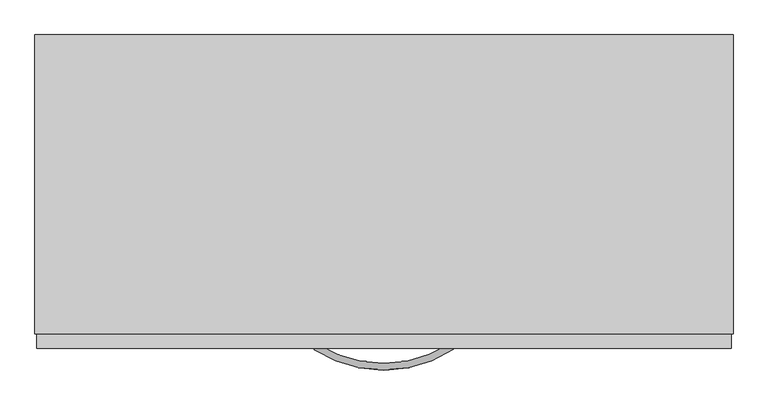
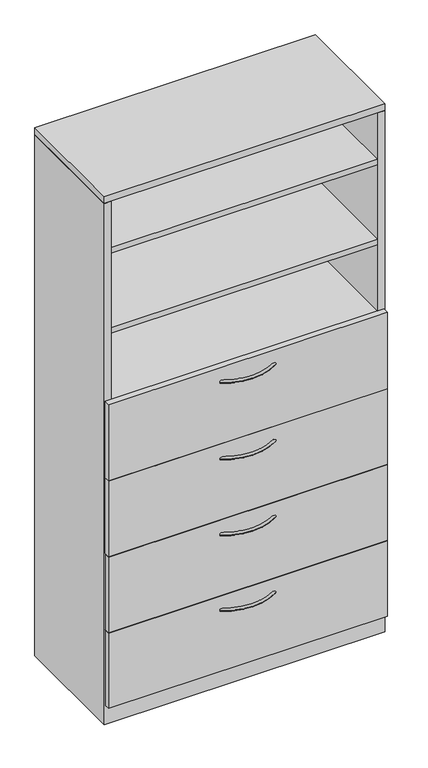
"""IFC4 building model written with IfcOpenShell, lengths in millimetres: furniture geometry, Steelcase - Universal Storage - Cabinet - Combination - Proud Steel : 83 1/2H - Open Cabinet/4 Drawers - 18 7/8D x 42W."""

from ifc_helpers import new_model, si_unit, point, frame, origin, place, context, project, spatial, polyline, circle_curve, ellipse_curve, trimmed, outline, extrude, faceted_brep, source, transform, mapped, element, save
from ifc_brep_helpers import plane_surface, revolved_surface, advanced_brep


def furniture_5d3c492f(model_context):
    return source(origin(), model_context, "Body", "SolidModel", [
        extrude(outline(polyline([(1041.4000242, -25.4000008), (1041.4000242, -454.0250121), (25.4000008, -454.0250121), (25.4000008, -25.4000008), (1041.4000242, -25.4000008)])), frame((0.0, 0.0, 1273.1750484), z_axis=(0.0, 0.0, 1.0), x_axis=(1.0, 0.0, 0.0)), (0.0, 0.0, 1.0), 22.2249516),
        extrude(outline(polyline([(1041.4000242, -25.4000008), (1041.4000242, -454.0250121), (25.4000008, -454.0250121), (25.4000008, -25.4000008), (1041.4000242, -25.4000008)])), frame((0.0, 0.0, 1562.7350484), z_axis=(0.0, 0.0, 1.0), x_axis=(1.0, 0.0, 0.0)), (0.0, 0.0, 1.0), 22.2249516),
        extrude(outline(polyline([(1041.4000242, -25.4000008), (1041.4000242, -454.0250121), (25.4000008, -454.0250121), (25.4000008, -25.4000008), (1041.4000242, -25.4000008)])), frame((0.0, 0.0, 1882.7750484), z_axis=(0.0, 0.0, 1.0), x_axis=(1.0, 0.0, 0.0)), (0.0, 0.0, 1.0), 22.2249516),
        advanced_brep(
        [(426.8245932, -481.5705994, 1240.6312742), (432.2977519, -473.0108019, 1240.6312742), (639.1315136, -481.1337636, 1240.6312742), (633.6231767, -472.5965612, 1240.6312742)],
        [
            (0, 1, circle_curve(frame((429.5611726, -477.2907007, 1240.6312742), z_axis=(-0.8424997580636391, 0.5386967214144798, 0.0), x_axis=(0.5386967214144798, 0.8424997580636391, 0.0)), 5.08)),
            (1, 0, circle_curve(frame((429.5611726, -477.2907007, 1240.6312742), z_axis=(-0.8424997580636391, 0.5386967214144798, 0.0), x_axis=(0.5386967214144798, 0.8424997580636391, 0.0)), 5.08)),
            (2, 3, circle_curve(frame((636.3773452, -476.8651624, 1240.6312742), z_axis=(0.8402758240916, 0.5421591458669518, 0.0), x_axis=(-0.5421591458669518, 0.8402758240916, 0.0)), 5.08)),
            (3, 2, circle_curve(frame((636.3773452, -476.8651624, 1240.6312742), z_axis=(0.8402758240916, 0.5421591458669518, 0.0), x_axis=(-0.5421591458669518, 0.8402758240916, 0.0)), 5.08)),
            (3, 1, circle_curve(frame((532.6380004, -316.0827352, 1240.6312742), z_axis=(0.0, 0.0, -1.0), x_axis=(-0.5386967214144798, -0.8424997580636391, 0.0)), 186.2648211)),
            (0, 2, circle_curve(frame((532.6380004, -316.0827352, 1240.6312742), z_axis=(0.0, 0.0, 1.0), x_axis=(-0.5386967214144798, -0.8424997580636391, 0.0)), 196.4248211)),
        ],
        [
            plane_surface(frame((429.9794521, -476.6365286, 1241.4250242), z_axis=(-0.8424997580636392, 0.5386967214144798, 0.0), x_axis=(0.0, 0.0, 1.0))),
            plane_surface(frame((635.9563772, -476.2127171, 1241.4250242), z_axis=(0.8402758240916, 0.5421591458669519, 0.0), x_axis=(0.0, 0.0, 1.0))),
            revolved_surface(trimmed(ellipse_curve(frame((429.5611726, -477.2907007, 1240.6312742), z_axis=(-0.8424997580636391, 0.5386967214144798, 0.0), x_axis=(0.5386967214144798, 0.8424997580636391, 0.0)), 5.08, 5.08), [point((426.8245932, -481.5705994, 1240.6312742))], [point((432.2977519, -473.0108019, 1240.6312742))], True, "CARTESIAN"), (532.6380004, -316.0827352, 1241.4250242), (0.0, 0.0, 1.0)),
            revolved_surface(trimmed(ellipse_curve(frame((429.5611726, -477.2907007, 1240.6312742), z_axis=(-0.8424997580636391, 0.5386967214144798, 0.0), x_axis=(0.5386967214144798, 0.8424997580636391, 0.0)), 5.08, 5.08), [point((432.2977519, -473.0108019, 1240.6312742))], [point((426.8245932, -481.5705994, 1240.6312742))], True, "CARTESIAN"), (532.6380004, -316.0827352, 1241.4250242), (0.0, 0.0, 1.0)),
        ],
        [
            (0, [[1, 2]]),
            (1, [[3, 4]]),
            (2, [[5, -1, 6, -4]]),
            (3, [[-6, -2, -5, -3]]),
        ],
    ),
        advanced_brep(
        [(426.8245932, -481.5705994, 323.56425), (432.2977519, -473.0108019, 323.56425), (639.1315136, -481.1337636, 323.56425), (633.6231767, -472.5965612, 323.56425)],
        [
            (0, 1, circle_curve(frame((429.5611726, -477.2907007, 323.56425), z_axis=(-0.8424997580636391, 0.5386967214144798, 0.0), x_axis=(0.5386967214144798, 0.8424997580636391, 0.0)), 5.08)),
            (1, 0, circle_curve(frame((429.5611726, -477.2907007, 323.56425), z_axis=(-0.8424997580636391, 0.5386967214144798, 0.0), x_axis=(0.5386967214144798, 0.8424997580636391, 0.0)), 5.08)),
            (2, 3, circle_curve(frame((636.3773452, -476.8651624, 323.56425), z_axis=(0.8402758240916, 0.5421591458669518, 0.0), x_axis=(-0.5421591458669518, 0.8402758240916, 0.0)), 5.08)),
            (3, 2, circle_curve(frame((636.3773452, -476.8651624, 323.56425), z_axis=(0.8402758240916, 0.5421591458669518, 0.0), x_axis=(-0.5421591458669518, 0.8402758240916, 0.0)), 5.08)),
            (3, 1, circle_curve(frame((532.6380004, -316.0827352, 323.56425), z_axis=(0.0, 0.0, -1.0), x_axis=(-0.5386967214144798, -0.8424997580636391, 0.0)), 186.2648211)),
            (0, 2, circle_curve(frame((532.6380004, -316.0827352, 323.56425), z_axis=(0.0, 0.0, 1.0), x_axis=(-0.5386967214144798, -0.8424997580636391, 0.0)), 196.4248211)),
        ],
        [
            plane_surface(frame((429.9794521, -476.6365286, 324.358), z_axis=(-0.8424997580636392, 0.5386967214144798, 0.0), x_axis=(0.0, 0.0, 1.0))),
            plane_surface(frame((635.9563772, -476.2127171, 324.358), z_axis=(0.8402758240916, 0.5421591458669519, 0.0), x_axis=(0.0, 0.0, 1.0))),
            revolved_surface(trimmed(ellipse_curve(frame((429.5611726, -477.2907007, 323.56425), z_axis=(-0.8424997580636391, 0.5386967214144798, 0.0), x_axis=(0.5386967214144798, 0.8424997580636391, 0.0)), 5.08, 5.08), [point((426.8245932, -481.5705994, 323.56425))], [point((432.2977519, -473.0108019, 323.56425))], True, "CARTESIAN"), (532.6380004, -316.0827352, 324.358), (0.0, 0.0, 1.0)),
            revolved_surface(trimmed(ellipse_curve(frame((429.5611726, -477.2907007, 323.56425), z_axis=(-0.8424997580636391, 0.5386967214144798, 0.0), x_axis=(0.5386967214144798, 0.8424997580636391, 0.0)), 5.08, 5.08), [point((432.2977519, -473.0108019, 323.56425))], [point((426.8245932, -481.5705994, 323.56425))], True, "CARTESIAN"), (532.6380004, -316.0827352, 324.358), (0.0, 0.0, 1.0)),
        ],
        [
            (0, [[1, 2]]),
            (1, [[3, 4]]),
            (2, [[5, -1, 6, -4]]),
            (3, [[-6, -2, -5, -3]]),
        ],
    ),
        advanced_brep(
        [(426.8245932, -481.5705994, 627.85625), (432.2977519, -473.0108019, 627.85625), (639.1315136, -481.1337636, 627.85625), (633.6231767, -472.5965612, 627.85625)],
        [
            (0, 1, circle_curve(frame((429.5611726, -477.2907007, 627.85625), z_axis=(-0.8424997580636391, 0.5386967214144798, 0.0), x_axis=(0.5386967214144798, 0.8424997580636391, 0.0)), 5.08)),
            (1, 0, circle_curve(frame((429.5611726, -477.2907007, 627.85625), z_axis=(-0.8424997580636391, 0.5386967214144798, 0.0), x_axis=(0.5386967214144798, 0.8424997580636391, 0.0)), 5.08)),
            (2, 3, circle_curve(frame((636.3773452, -476.8651624, 627.85625), z_axis=(0.8402758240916, 0.5421591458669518, 0.0), x_axis=(-0.5421591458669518, 0.8402758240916, 0.0)), 5.08)),
            (3, 2, circle_curve(frame((636.3773452, -476.8651624, 627.85625), z_axis=(0.8402758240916, 0.5421591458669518, 0.0), x_axis=(-0.5421591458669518, 0.8402758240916, 0.0)), 5.08)),
            (3, 1, circle_curve(frame((532.6380004, -316.0827352, 627.85625), z_axis=(0.0, 0.0, -1.0), x_axis=(-0.5386967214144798, -0.8424997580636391, 0.0)), 186.2648211)),
            (0, 2, circle_curve(frame((532.6380004, -316.0827352, 627.85625), z_axis=(0.0, 0.0, 1.0), x_axis=(-0.5386967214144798, -0.8424997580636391, 0.0)), 196.4248211)),
        ],
        [
            plane_surface(frame((429.9794521, -476.6365286, 628.65), z_axis=(-0.8424997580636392, 0.5386967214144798, 0.0), x_axis=(0.0, 0.0, 1.0))),
            plane_surface(frame((635.9563772, -476.2127171, 628.65), z_axis=(0.8402758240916, 0.5421591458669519, 0.0), x_axis=(0.0, 0.0, 1.0))),
            revolved_surface(trimmed(ellipse_curve(frame((429.5611726, -477.2907007, 627.85625), z_axis=(-0.8424997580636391, 0.5386967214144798, 0.0), x_axis=(0.5386967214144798, 0.8424997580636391, 0.0)), 5.08, 5.08), [point((426.8245932, -481.5705994, 627.85625))], [point((432.2977519, -473.0108019, 627.85625))], True, "CARTESIAN"), (532.6380004, -316.0827352, 628.65), (0.0, 0.0, 1.0)),
            revolved_surface(trimmed(ellipse_curve(frame((429.5611726, -477.2907007, 627.85625), z_axis=(-0.8424997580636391, 0.5386967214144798, 0.0), x_axis=(0.5386967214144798, 0.8424997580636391, 0.0)), 5.08, 5.08), [point((432.2977519, -473.0108019, 627.85625))], [point((426.8245932, -481.5705994, 627.85625))], True, "CARTESIAN"), (532.6380004, -316.0827352, 628.65), (0.0, 0.0, 1.0)),
        ],
        [
            (0, [[1, 2]]),
            (1, [[3, 4]]),
            (2, [[5, -1, 6, -4]]),
            (3, [[-6, -2, -5, -3]]),
        ],
    ),
        extrude(outline(polyline([(1063.6225413, -479.552), (3.1725353, -479.552), (3.1725353, -457.3261219), (1063.6225413, -457.3261219), (1063.6225413, -479.552)])), frame((0.0, 0.0, 992.1240349), z_axis=(0.0, 0.0, 1.0), x_axis=(1.0, 0.0, 0.0)), (0.0, 0.0, 1.0), 306.4509893),
        extrude(outline(polyline([(1063.6225413, -479.552), (3.1725353, -479.552), (3.1725353, -457.3261219), (1063.6225413, -457.3261219), (1063.6225413, -479.552)])), frame((0.0, 0.0, 687.3240349), z_axis=(0.0, 0.0, 1.0), x_axis=(1.0, 0.0, 0.0)), (0.0, 0.0, 1.0), 303.2759651),
        advanced_brep(
        [(426.8245932, -481.5705994, 932.65625), (432.2977519, -473.0108019, 932.65625), (639.1315136, -481.1337636, 932.65625), (633.6231767, -472.5965612, 932.65625)],
        [
            (0, 1, circle_curve(frame((429.5611726, -477.2907007, 932.65625), z_axis=(-0.8424997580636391, 0.5386967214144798, 0.0), x_axis=(0.5386967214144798, 0.8424997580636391, 0.0)), 5.08)),
            (1, 0, circle_curve(frame((429.5611726, -477.2907007, 932.65625), z_axis=(-0.8424997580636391, 0.5386967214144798, 0.0), x_axis=(0.5386967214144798, 0.8424997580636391, 0.0)), 5.08)),
            (2, 3, circle_curve(frame((636.3773452, -476.8651624, 932.65625), z_axis=(0.8402758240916, 0.5421591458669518, 0.0), x_axis=(-0.5421591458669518, 0.8402758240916, 0.0)), 5.08)),
            (3, 2, circle_curve(frame((636.3773452, -476.8651624, 932.65625), z_axis=(0.8402758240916, 0.5421591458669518, 0.0), x_axis=(-0.5421591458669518, 0.8402758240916, 0.0)), 5.08)),
            (3, 1, circle_curve(frame((532.6380004, -316.0827352, 932.65625), z_axis=(0.0, 0.0, -1.0), x_axis=(-0.5386967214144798, -0.8424997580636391, 0.0)), 186.2648211)),
            (0, 2, circle_curve(frame((532.6380004, -316.0827352, 932.65625), z_axis=(0.0, 0.0, 1.0), x_axis=(-0.5386967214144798, -0.8424997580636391, 0.0)), 196.4248211)),
        ],
        [
            plane_surface(frame((429.9794521, -476.6365286, 933.45), z_axis=(-0.8424997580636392, 0.5386967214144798, 0.0), x_axis=(0.0, 0.0, 1.0))),
            plane_surface(frame((635.9563772, -476.2127171, 933.45), z_axis=(0.8402758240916, 0.5421591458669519, 0.0), x_axis=(0.0, 0.0, 1.0))),
            revolved_surface(trimmed(ellipse_curve(frame((429.5611726, -477.2907007, 932.65625), z_axis=(-0.8424997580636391, 0.5386967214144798, 0.0), x_axis=(0.5386967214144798, 0.8424997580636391, 0.0)), 5.08, 5.08), [point((426.8245932, -481.5705994, 932.65625))], [point((432.2977519, -473.0108019, 932.65625))], True, "CARTESIAN"), (532.6380004, -316.0827352, 933.45), (0.0, 0.0, 1.0)),
            revolved_surface(trimmed(ellipse_curve(frame((429.5611726, -477.2907007, 932.65625), z_axis=(-0.8424997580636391, 0.5386967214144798, 0.0), x_axis=(0.5386967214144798, 0.8424997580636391, 0.0)), 5.08, 5.08), [point((432.2977519, -473.0108019, 932.65625))], [point((426.8245932, -481.5705994, 932.65625))], True, "CARTESIAN"), (532.6380004, -316.0827352, 933.45), (0.0, 0.0, 1.0)),
        ],
        [
            (0, [[1, 2]]),
            (1, [[3, 4]]),
            (2, [[5, -1, 6, -4]]),
            (3, [[-6, -2, -5, -3]]),
        ],
    ),
        faceted_brep([(25.4000008, -457.3261219, 76.2), (1041.4000242, -457.3261219, 76.2), (1041.4000242, -25.4000008, 76.2), (25.4000008, -25.4000008, 76.2), (1066.8, 0.0, 0.0), (1066.8, -457.3261219, 0.0), (0.0, -457.3261219, 0.0), (0.0, 0.0, 0.0), (0.0, 0.0, 2093.976), (1066.8, 0.0, 2093.976), (0.0, -457.3261219, 2093.976), (1066.8, -457.3261219, 2093.976), (1041.4000242, -457.3261219, 2093.976), (25.4000008, -457.3261219, 2093.976), (1041.4000242, -25.4000008, 2093.976), (25.4000008, -25.4000008, 2093.976)], [[[0, 1, 2, 3]], [[4, 5, 6, 7]], [[4, 7, 8, 9]], [[8, 7, 6, 10]], [[10, 6, 5, 11, 12, 1, 0, 13]], [[11, 5, 4, 9]], [[14, 12, 11, 9, 8, 10, 13, 15]], [[12, 14, 2, 1]], [[15, 13, 0, 3]], [[14, 15, 3, 2]]]),
        extrude(outline(polyline([(1063.6225413, -479.552), (3.1725353, -479.552), (3.1725353, -457.3261219), (1063.6225413, -457.3261219), (1063.6225413, -479.552)])), frame((0.0, 0.0, 77.724), z_axis=(0.0, 0.0, 1.0), x_axis=(1.0, 0.0, 0.0)), (0.0, 0.0, 1.0), 303.276),
        extrude(outline(polyline([(1063.6225413, -479.552), (3.1725353, -479.552), (3.1725353, -457.3261219), (1063.6225413, -457.3261219), (1063.6225413, -479.552)])), frame((0.0, 0.0, 382.524), z_axis=(0.0, 0.0, 1.0), x_axis=(1.0, 0.0, 0.0)), (0.0, 0.0, 1.0), 303.276),
        extrude(outline(polyline([(1066.8, 0.0), (1066.8, -457.3261219), (0.0, -457.3261219), (0.0, 0.0), (1066.8, 0.0)])), frame((0.0, 0.0, 2095.4999516), z_axis=(0.0, 0.0, 1.0), x_axis=(1.0, 0.0, 0.0)), (0.0, 0.0, 1.0), 25.4000484),
    ])


if __name__ == "__main__":
    model = new_model("IFC4")
    model_context = context("Model", 3, world=origin())
    ifc_project = project(units=[si_unit("LENGTHUNIT", "METRE", prefix="MILLI")], contexts=[model_context])
    site = spatial("IfcSite", under=ifc_project)
    building = spatial("IfcBuilding", under=site)
    placement = place(None, origin())
    furniture_shape = furniture_5d3c492f(model_context)
    element("IfcFurniture", 1, ObjectType="Steelcase - Universal Storage - Cabinet - Combination - Proud Steel : 83 1/2H - Open Cabinet/4 Drawers - 18 7/8D x 42W", at=placement, inside=building, context=model_context, shape_type="MappedRepresentation", body=[
        mapped(furniture_shape, transform((0.0, 0.0, 0.0), x_axis=(1.0, 0.0, 0.0), y_axis=(0.0, 1.0, 0.0), z_axis=(0.0, 0.0, 1.0))),
    ])
    save(model, "model.ifc")
